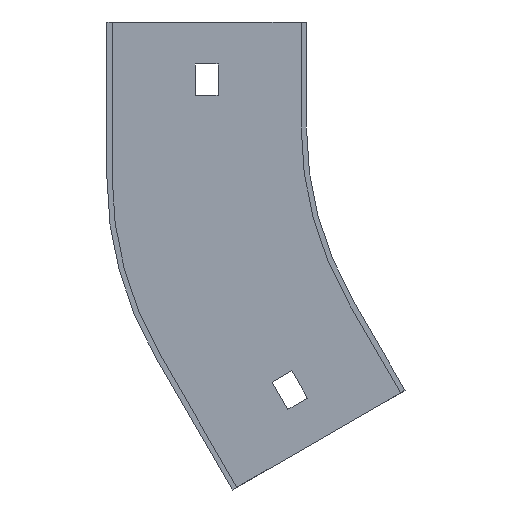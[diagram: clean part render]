
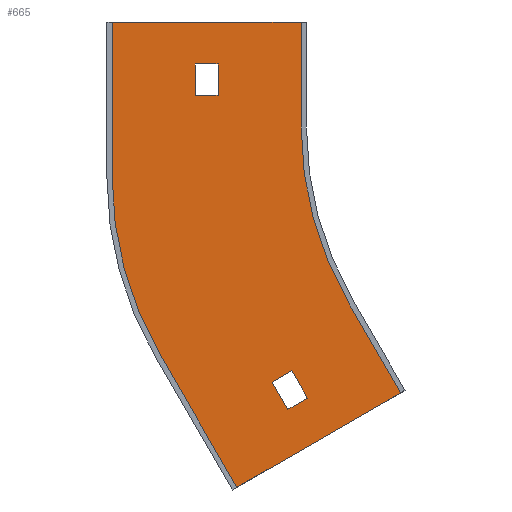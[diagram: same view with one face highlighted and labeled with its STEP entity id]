
A CAD part, front view. The second image highlights one B-rep face of the part: STEP entity #665.
In plain terms, the highlighted planar face has unit normal (0, -1, 0).
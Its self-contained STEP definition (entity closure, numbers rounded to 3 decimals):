
#1 = VERTEX_POINT ( 'NONE', #850 ) ;
#14 = EDGE_CURVE ( 'NONE', #667, #772, #645, .T. ) ;
#26 = DIRECTION ( 'NONE',  ( 0.5, 0., -0.866 ) ) ;
#27 = FACE_BOUND ( 'NONE', #56, .T. ) ;
#31 = LINE ( 'NONE', #274, #466 ) ;
#32 = VECTOR ( 'NONE', #762, 1000. ) ;
#56 = EDGE_LOOP ( 'NONE', ( #413, #461, #170, #739 ) ) ;
#59 = ORIENTED_EDGE ( 'NONE', *, *, #450, .F. ) ;
#60 = DIRECTION ( 'NONE',  ( 0., 0., -1. ) ) ;
#67 = VERTEX_POINT ( 'NONE', #756 ) ;
#77 = DIRECTION ( 'NONE',  ( 1., 0., 0. ) ) ;
#78 = DIRECTION ( 'NONE',  ( 1., 0., 0. ) ) ;
#81 = FACE_OUTER_BOUND ( 'NONE', #312, .T. ) ;
#83 = VECTOR ( 'NONE', #419, 1000. ) ;
#85 = DIRECTION ( 'NONE',  ( 0.866, 0., 0.5 ) ) ;
#90 = CARTESIAN_POINT ( 'NONE',  ( -98.171, -1.5, -77.463 ) ) ;
#95 = CARTESIAN_POINT ( 'NONE',  ( 0., -1.5, 9. ) ) ;
#96 = EDGE_CURVE ( 'NONE', #243, #598, #406, .T. ) ;
#98 = VERTEX_POINT ( 'NONE', #272 ) ;
#99 = EDGE_CURVE ( 'NONE', #67, #667, #811, .T. ) ;
#110 = ORIENTED_EDGE ( 'NONE', *, *, #335, .F. ) ;
#118 = CARTESIAN_POINT ( 'NONE',  ( -71.603, -1.5, -75.981 ) ) ;
#123 = AXIS2_PLACEMENT_3D ( 'NONE', #393, #526, #60 ) ;
#135 = ORIENTED_EDGE ( 'NONE', *, *, #96, .F. ) ;
#136 = DIRECTION ( 'NONE',  ( 0., 0., 1. ) ) ;
#139 = LINE ( 'NONE', #148, #83 ) ;
#140 = LINE ( 'NONE', #205, #660 ) ;
#148 = CARTESIAN_POINT ( 'NONE',  ( -130.25, -1.5, 0. ) ) ;
#157 = CIRCLE ( 'NONE', #123, 100. ) ;
#159 = EDGE_CURVE ( 'NONE', #1, #67, #425, .T. ) ;
#167 = CIRCLE ( 'NONE', #837, 100. ) ;
#170 = ORIENTED_EDGE ( 'NONE', *, *, #189, .T. ) ;
#181 = CARTESIAN_POINT ( 'NONE',  ( -130.25, -1.5, 9. ) ) ;
#185 = DIRECTION ( 'NONE',  ( -0.5, 0., 0.866 ) ) ;
#189 = EDGE_CURVE ( 'NONE', #608, #798, #705, .T. ) ;
#194 = CARTESIAN_POINT ( 'NONE',  ( -123.75, -1.5, 0. ) ) ;
#199 = LINE ( 'NONE', #194, #397 ) ;
#205 = CARTESIAN_POINT ( 'NONE',  ( 4.5, -1.5, -7.794 ) ) ;
#229 = DIRECTION ( 'NONE',  ( 0.5, 0., -0.866 ) ) ;
#239 = EDGE_CURVE ( 'NONE', #362, #612, #512, .T. ) ;
#243 = VERTEX_POINT ( 'NONE', #720 ) ;
#248 = VERTEX_POINT ( 'NONE', #118 ) ;
#250 = CARTESIAN_POINT ( 'NONE',  ( -107.171, -1.5, -61.875 ) ) ;
#267 = CARTESIAN_POINT ( 'NONE',  ( 0., -1.5, 0. ) ) ;
#270 = CARTESIAN_POINT ( 'NONE',  ( -155.5, -1.5, 30. ) ) ;
#272 = CARTESIAN_POINT ( 'NONE',  ( -123.75, -1.5, 18. ) ) ;
#274 = CARTESIAN_POINT ( 'NONE',  ( -70.304, -1.5, -75.231 ) ) ;
#286 = PLANE ( 'NONE',  #353 ) ;
#299 = VERTEX_POINT ( 'NONE', #310 ) ;
#310 = CARTESIAN_POINT ( 'NONE',  ( -130.25, -1.5, 18. ) ) ;
#312 = EDGE_LOOP ( 'NONE', ( #470, #318, #436, #135, #59, #827, #110, #411 ) ) ;
#318 = ORIENTED_EDGE ( 'NONE', *, *, #339, .F. ) ;
#329 = ORIENTED_EDGE ( 'NONE', *, *, #14, .F. ) ;
#335 = EDGE_CURVE ( 'NONE', #612, #460, #167, .T. ) ;
#339 = EDGE_CURVE ( 'NONE', #543, #818, #735, .T. ) ;
#349 = ORIENTED_EDGE ( 'NONE', *, *, #99, .F. ) ;
#351 = VECTOR ( 'NONE', #26, 1000. ) ;
#353 = AXIS2_PLACEMENT_3D ( 'NONE', #557, #826, #755 ) ;
#355 = EDGE_LOOP ( 'NONE', ( #329, #349, #725, #570 ) ) ;
#362 = VERTEX_POINT ( 'NONE', #728 ) ;
#382 = CARTESIAN_POINT ( 'NONE',  ( -100., -1.5, 30. ) ) ;
#390 = CARTESIAN_POINT ( 'NONE',  ( -154., -1.5, 30. ) ) ;
#393 = CARTESIAN_POINT ( 'NONE',  ( -54., -1.5, -14.469 ) ) ;
#397 = VECTOR ( 'NONE', #656, 1000. ) ;
#406 = LINE ( 'NONE', #601, #535 ) ;
#411 = ORIENTED_EDGE ( 'NONE', *, *, #239, .F. ) ;
#412 = CARTESIAN_POINT ( 'NONE',  ( 9., -1.5, -15.588 ) ) ;
#413 = ORIENTED_EDGE ( 'NONE', *, *, #657, .T. ) ;
#418 = VECTOR ( 'NONE', #77, 1000. ) ;
#419 = DIRECTION ( 'NONE',  ( 0., 0., 1. ) ) ;
#420 = EDGE_CURVE ( 'NONE', #818, #362, #819, .T. ) ;
#425 = LINE ( 'NONE', #688, #589 ) ;
#436 = ORIENTED_EDGE ( 'NONE', *, *, #565, .F. ) ;
#437 = EDGE_CURVE ( 'NONE', #460, #248, #476, .T. ) ;
#450 = EDGE_CURVE ( 'NONE', #248, #243, #31, .T. ) ;
#460 = VERTEX_POINT ( 'NONE', #758 ) ;
#461 = ORIENTED_EDGE ( 'NONE', *, *, #575, .T. ) ;
#463 = EDGE_CURVE ( 'NONE', #798, #299, #139, .T. ) ;
#466 = VECTOR ( 'NONE', #740, 1000. ) ;
#470 = ORIENTED_EDGE ( 'NONE', *, *, #420, .F. ) ;
#471 = DIRECTION ( 'NONE',  ( 0., 0., -1. ) ) ;
#476 = LINE ( 'NONE', #808, #351 ) ;
#487 = VECTOR ( 'NONE', #185, 1000. ) ;
#511 = VECTOR ( 'NONE', #78, 1000. ) ;
#512 = LINE ( 'NONE', #382, #703 ) ;
#526 = DIRECTION ( 'NONE',  ( 0., 1., 0. ) ) ;
#535 = VECTOR ( 'NONE', #823, 1000. ) ;
#540 = DIRECTION ( 'NONE',  ( 0., -1., 0. ) ) ;
#543 = VERTEX_POINT ( 'NONE', #787 ) ;
#550 = CARTESIAN_POINT ( 'NONE',  ( -102.671, -1.5, -69.669 ) ) ;
#552 = CARTESIAN_POINT ( 'NONE',  ( -100., -1.5, 0. ) ) ;
#556 = VECTOR ( 'NONE', #136, 1000. ) ;
#557 = CARTESIAN_POINT ( 'NONE',  ( 0., -1.5, 0. ) ) ;
#565 = EDGE_CURVE ( 'NONE', #598, #543, #157, .T. ) ;
#570 = ORIENTED_EDGE ( 'NONE', *, *, #743, .F. ) ;
#575 = EDGE_CURVE ( 'NONE', #98, #608, #199, .T. ) ;
#589 = VECTOR ( 'NONE', #229, 1000. ) ;
#598 = VERTEX_POINT ( 'NONE', #803 ) ;
#601 = CARTESIAN_POINT ( 'NONE',  ( -118.368, -1.5, -102.981 ) ) ;
#608 = VERTEX_POINT ( 'NONE', #856 ) ;
#612 = VERTEX_POINT ( 'NONE', #552 ) ;
#645 = LINE ( 'NONE', #250, #487 ) ;
#656 = DIRECTION ( 'NONE',  ( 0., 0., -1. ) ) ;
#657 = EDGE_CURVE ( 'NONE', #299, #98, #747, .T. ) ;
#660 = VECTOR ( 'NONE', #741, 1000. ) ;
#665 = ADVANCED_FACE ( 'NONE', ( #687, #81, #27 ), #286, .T. ) ;
#667 = VERTEX_POINT ( 'NONE', #90 ) ;
#683 = CARTESIAN_POINT ( 'NONE',  ( 0., -1.5, 18. ) ) ;
#686 = VECTOR ( 'NONE', #85, 1000. ) ;
#687 = FACE_BOUND ( 'NONE', #355, .T. ) ;
#688 = CARTESIAN_POINT ( 'NONE',  ( -112.8, -1.5, -65.125 ) ) ;
#703 = VECTOR ( 'NONE', #780, 1000. ) ;
#705 = LINE ( 'NONE', #95, #32 ) ;
#720 = CARTESIAN_POINT ( 'NONE',  ( -118.368, -1.5, -102.981 ) ) ;
#725 = ORIENTED_EDGE ( 'NONE', *, *, #159, .F. ) ;
#728 = CARTESIAN_POINT ( 'NONE',  ( -100., -1.5, 30. ) ) ;
#735 = LINE ( 'NONE', #788, #556 ) ;
#739 = ORIENTED_EDGE ( 'NONE', *, *, #463, .T. ) ;
#740 = DIRECTION ( 'NONE',  ( -0.866, 0., -0.5 ) ) ;
#741 = DIRECTION ( 'NONE',  ( -0.866, 0., -0.5 ) ) ;
#743 = EDGE_CURVE ( 'NONE', #772, #1, #140, .T. ) ;
#747 = LINE ( 'NONE', #683, #511 ) ;
#755 = DIRECTION ( 'NONE',  ( 0., 0., -1. ) ) ;
#756 = CARTESIAN_POINT ( 'NONE',  ( -103.8, -1.5, -80.713 ) ) ;
#758 = CARTESIAN_POINT ( 'NONE',  ( -86.603, -1.5, -50. ) ) ;
#762 = DIRECTION ( 'NONE',  ( -1., 0., 0. ) ) ;
#772 = VERTEX_POINT ( 'NONE', #550 ) ;
#780 = DIRECTION ( 'NONE',  ( 0., 0., -1. ) ) ;
#787 = CARTESIAN_POINT ( 'NONE',  ( -154., -1.5, -14.469 ) ) ;
#788 = CARTESIAN_POINT ( 'NONE',  ( -154., -1.5, -14.469 ) ) ;
#798 = VERTEX_POINT ( 'NONE', #181 ) ;
#803 = CARTESIAN_POINT ( 'NONE',  ( -140.603, -1.5, -64.469 ) ) ;
#808 = CARTESIAN_POINT ( 'NONE',  ( -86.603, -1.5, -50. ) ) ;
#811 = LINE ( 'NONE', #412, #686 ) ;
#818 = VERTEX_POINT ( 'NONE', #390 ) ;
#819 = LINE ( 'NONE', #270, #418 ) ;
#823 = DIRECTION ( 'NONE',  ( -0.5, 0., 0.866 ) ) ;
#826 = DIRECTION ( 'NONE',  ( 0., -1., 0. ) ) ;
#827 = ORIENTED_EDGE ( 'NONE', *, *, #437, .F. ) ;
#837 = AXIS2_PLACEMENT_3D ( 'NONE', #267, #540, #471 ) ;
#850 = CARTESIAN_POINT ( 'NONE',  ( -108.3, -1.5, -72.919 ) ) ;
#856 = CARTESIAN_POINT ( 'NONE',  ( -123.75, -1.5, 9. ) ) ;
